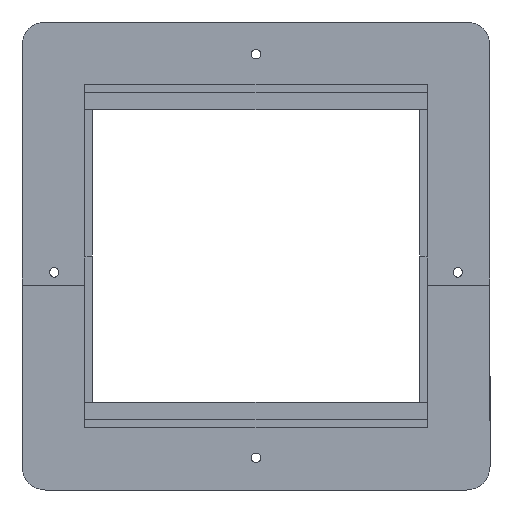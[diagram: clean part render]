
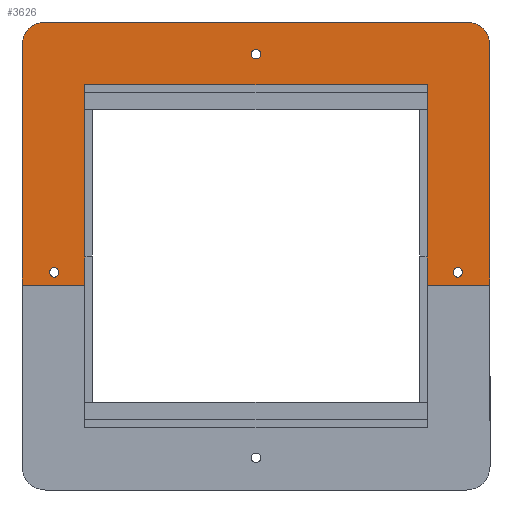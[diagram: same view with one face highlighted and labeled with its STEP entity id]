
A CAD part, front view. The second image highlights one B-rep face of the part: STEP entity #3626.
In plain terms, the highlighted planar face has unit normal (0, -1, 0).
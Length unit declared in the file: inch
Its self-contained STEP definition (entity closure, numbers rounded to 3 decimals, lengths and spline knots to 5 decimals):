
#376 = EDGE_CURVE ( 'NONE', #416, #379, #2373, .T. ) ;
#379 = VERTEX_POINT ( 'NONE', #2363 ) ;
#390 = VERTEX_POINT ( 'NONE', #2518 ) ;
#416 = VERTEX_POINT ( 'NONE', #2346 ) ;
#421 = EDGE_CURVE ( 'NONE', #422, #568, #2335, .T. ) ;
#422 = VERTEX_POINT ( 'NONE', #2329 ) ;
#442 = VERTEX_POINT ( 'NONE', #1443 ) ;
#444 = EDGE_CURVE ( 'NONE', #442, #445, #1460, .T. ) ;
#445 = VERTEX_POINT ( 'NONE', #1432 ) ;
#461 = EDGE_CURVE ( 'NONE', #379, #416, #1482, .T. ) ;
#465 = VERTEX_POINT ( 'NONE', #1520 ) ;
#490 = VERTEX_POINT ( 'NONE', #1530 ) ;
#491 = EDGE_CURVE ( 'NONE', #495, #390, #1532, .T. ) ;
#495 = VERTEX_POINT ( 'NONE', #1564 ) ;
#506 = EDGE_CURVE ( 'NONE', #490, #508, #1557, .T. ) ;
#508 = VERTEX_POINT ( 'NONE', #1541 ) ;
#521 = VERTEX_POINT ( 'NONE', #1586 ) ;
#523 = EDGE_CURVE ( 'NONE', #521, #524, #1595, .T. ) ;
#524 = VERTEX_POINT ( 'NONE', #1585 ) ;
#546 = ORIENTED_EDGE ( 'NONE', *, *, #3619, .F. ) ;
#548 = ORIENTED_EDGE ( 'NONE', *, *, #3622, .F. ) ;
#549 = ORIENTED_EDGE ( 'NONE', *, *, #444, .F. ) ;
#550 = ORIENTED_EDGE ( 'NONE', *, *, #551, .T. ) ;
#551 = EDGE_CURVE ( 'NONE', #442, #422, #1650, .T. ) ;
#552 = ORIENTED_EDGE ( 'NONE', *, *, #421, .T. ) ;
#558 = EDGE_LOOP ( 'NONE', ( #3628, #3686, #3627, #546, #548, #549, #550, #552, #3681, #3893 ) ) ;
#568 = VERTEX_POINT ( 'NONE', #1671 ) ;
#582 = EDGE_CURVE ( 'NONE', #568, #490, #1694, .T. ) ;
#589 = VERTEX_POINT ( 'NONE', #1630 ) ;
#1432 = CARTESIAN_POINT ( 'NONE',  ( -5., 0., 4.5 ) ) ;
#1443 = CARTESIAN_POINT ( 'NONE',  ( -5., 0., -0.62 ) ) ;
#1447 = DIRECTION ( 'NONE',  ( 0., 0., 1. ) ) ;
#1448 = VECTOR ( 'NONE', #1447, 39.37008 ) ;
#1449 = CARTESIAN_POINT ( 'NONE',  ( -5., 0., 4.5 ) ) ;
#1460 = LINE ( 'NONE', #1449, #1448 ) ;
#1482 = CIRCLE ( 'NONE', #1493, 0.1005 ) ;
#1493 = AXIS2_PLACEMENT_3D ( 'NONE', #1515, #1512, #1513 ) ;
#1512 = DIRECTION ( 'NONE',  ( 0., -1., 0. ) ) ;
#1513 = DIRECTION ( 'NONE',  ( 0., 0., -1. ) ) ;
#1515 = CARTESIAN_POINT ( 'NONE',  ( -4.31, 0., -0.35 ) ) ;
#1520 = CARTESIAN_POINT ( 'NONE',  ( -4.5, 0., 5. ) ) ;
#1530 = CARTESIAN_POINT ( 'NONE',  ( 3.656, 0., 3.656 ) ) ;
#1531 = AXIS2_PLACEMENT_3D ( 'NONE', #1538, #1533, #1537 ) ;
#1532 = CIRCLE ( 'NONE', #1531, 0.1005 ) ;
#1533 = DIRECTION ( 'NONE',  ( 0., -1., 0. ) ) ;
#1537 = DIRECTION ( 'NONE',  ( 0., 0., -1. ) ) ;
#1538 = CARTESIAN_POINT ( 'NONE',  ( 0., 0., 4.31 ) ) ;
#1541 = CARTESIAN_POINT ( 'NONE',  ( 3.656, 0., -0.62 ) ) ;
#1554 = DIRECTION ( 'NONE',  ( 0., 0., -1. ) ) ;
#1555 = VECTOR ( 'NONE', #1554, 39.37008 ) ;
#1556 = CARTESIAN_POINT ( 'NONE',  ( 3.656, 0., 3.656 ) ) ;
#1557 = LINE ( 'NONE', #1556, #1555 ) ;
#1564 = CARTESIAN_POINT ( 'NONE',  ( 0., 0., 4.4105 ) ) ;
#1585 = CARTESIAN_POINT ( 'NONE',  ( 4.31, 0., -0.4505 ) ) ;
#1586 = CARTESIAN_POINT ( 'NONE',  ( 4.31, 0., -0.2495 ) ) ;
#1591 = DIRECTION ( 'NONE',  ( 0., 0., 1. ) ) ;
#1592 = DIRECTION ( 'NONE',  ( 0., -1., 0. ) ) ;
#1593 = CARTESIAN_POINT ( 'NONE',  ( 4.31, 0., -0.35 ) ) ;
#1594 = AXIS2_PLACEMENT_3D ( 'NONE', #1593, #1592, #1591 ) ;
#1595 = CIRCLE ( 'NONE', #1594, 0.1005 ) ;
#1630 = CARTESIAN_POINT ( 'NONE',  ( 4.5, 0., 5. ) ) ;
#1649 = CARTESIAN_POINT ( 'NONE',  ( -6., 0., -0.62 ) ) ;
#1650 = LINE ( 'NONE', #1649, #1673 ) ;
#1671 = CARTESIAN_POINT ( 'NONE',  ( -3.656, 0., 3.656 ) ) ;
#1672 = DIRECTION ( 'NONE',  ( 1., 0., 0. ) ) ;
#1673 = VECTOR ( 'NONE', #1672, 39.37008 ) ;
#1691 = DIRECTION ( 'NONE',  ( 1., 0., 0. ) ) ;
#1692 = VECTOR ( 'NONE', #1691, 39.37008 ) ;
#1693 = CARTESIAN_POINT ( 'NONE',  ( -3.656, 0., 3.656 ) ) ;
#1694 = LINE ( 'NONE', #1693, #1692 ) ;
#2329 = CARTESIAN_POINT ( 'NONE',  ( -3.656, 0., -0.62 ) ) ;
#2330 = DIRECTION ( 'NONE',  ( 0., 0., 1. ) ) ;
#2331 = VECTOR ( 'NONE', #2330, 39.37008 ) ;
#2332 = CARTESIAN_POINT ( 'NONE',  ( -3.656, 0., 3.656 ) ) ;
#2335 = LINE ( 'NONE', #2332, #2331 ) ;
#2346 = CARTESIAN_POINT ( 'NONE',  ( -4.31, 0., -0.4505 ) ) ;
#2363 = CARTESIAN_POINT ( 'NONE',  ( -4.31, 0., -0.2495 ) ) ;
#2369 = DIRECTION ( 'NONE',  ( 0., 0., -1. ) ) ;
#2370 = DIRECTION ( 'NONE',  ( 0., -1., 0. ) ) ;
#2371 = CARTESIAN_POINT ( 'NONE',  ( -4.31, 0., -0.35 ) ) ;
#2372 = AXIS2_PLACEMENT_3D ( 'NONE', #2371, #2370, #2369 ) ;
#2373 = CIRCLE ( 'NONE', #2372, 0.1005 ) ;
#2518 = CARTESIAN_POINT ( 'NONE',  ( 0., 0., 4.2095 ) ) ;
#2884 = DIRECTION ( 'NONE',  ( 1., 0., 0. ) ) ;
#2885 = VECTOR ( 'NONE', #2884, 39.37008 ) ;
#2886 = CARTESIAN_POINT ( 'NONE',  ( -4.5, 0., 5. ) ) ;
#2887 = LINE ( 'NONE', #2886, #2885 ) ;
#2912 = CARTESIAN_POINT ( 'NONE',  ( 4.5, 0., 4.5 ) ) ;
#2913 = CIRCLE ( 'NONE', #2972, 0.5 ) ;
#2918 = CARTESIAN_POINT ( 'NONE',  ( 5., 0., 4.5 ) ) ;
#2919 = DIRECTION ( 'NONE',  ( 0., 0., -1. ) ) ;
#2920 = VECTOR ( 'NONE', #2919, 39.37008 ) ;
#2921 = CARTESIAN_POINT ( 'NONE',  ( 5., 0., 4.5 ) ) ;
#2922 = LINE ( 'NONE', #2921, #2920 ) ;
#2923 = CARTESIAN_POINT ( 'NONE',  ( 5., 0., -0.62 ) ) ;
#2924 = DIRECTION ( 'NONE',  ( 0., 0., -1. ) ) ;
#2925 = DIRECTION ( 'NONE',  ( 0., -1., 0. ) ) ;
#2926 = CARTESIAN_POINT ( 'NONE',  ( -4.5, 0., -4.5 ) ) ;
#2927 = AXIS2_PLACEMENT_3D ( 'NONE', #2926, #2925, #2924 ) ;
#2928 = PLANE ( 'NONE',  #2927 ) ;
#2929 = FACE_BOUND ( 'NONE', #3882, .T. ) ;
#2930 = FACE_BOUND ( 'NONE', #3931, .T. ) ;
#2931 = FACE_BOUND ( 'NONE', #3881, .T. ) ;
#2932 = FACE_OUTER_BOUND ( 'NONE', #558, .T. ) ;
#2937 = DIRECTION ( 'NONE',  ( 0., 0., -1. ) ) ;
#2938 = DIRECTION ( 'NONE',  ( 0., 1., 0. ) ) ;
#2939 = CARTESIAN_POINT ( 'NONE',  ( -4.5, 0., 4.5 ) ) ;
#2940 = AXIS2_PLACEMENT_3D ( 'NONE', #2939, #2938, #2937 ) ;
#2941 = CIRCLE ( 'NONE', #2940, 0.5 ) ;
#2966 = DIRECTION ( 'NONE',  ( 1., 0., 0. ) ) ;
#2967 = VECTOR ( 'NONE', #2966, 39.37008 ) ;
#2968 = CARTESIAN_POINT ( 'NONE',  ( -6., 0., -0.62 ) ) ;
#2969 = LINE ( 'NONE', #2968, #2967 ) ;
#2970 = DIRECTION ( 'NONE',  ( 0., 0., 1. ) ) ;
#2971 = DIRECTION ( 'NONE',  ( 0., 1., 0. ) ) ;
#2972 = AXIS2_PLACEMENT_3D ( 'NONE', #2912, #2971, #2970 ) ;
#3082 = CIRCLE ( 'NONE', #3135, 0.1005 ) ;
#3084 = CARTESIAN_POINT ( 'NONE',  ( 4.31, 0., -0.35 ) ) ;
#3091 = DIRECTION ( 'NONE',  ( 0., 0., -1. ) ) ;
#3092 = DIRECTION ( 'NONE',  ( 0., -1., 0. ) ) ;
#3093 = CARTESIAN_POINT ( 'NONE',  ( 0., 0., 4.31 ) ) ;
#3094 = AXIS2_PLACEMENT_3D ( 'NONE', #3093, #3092, #3091 ) ;
#3095 = CIRCLE ( 'NONE', #3094, 0.1005 ) ;
#3133 = DIRECTION ( 'NONE',  ( 0., 0., 1. ) ) ;
#3134 = DIRECTION ( 'NONE',  ( 0., -1., 0. ) ) ;
#3135 = AXIS2_PLACEMENT_3D ( 'NONE', #3084, #3134, #3133 ) ;
#3619 = EDGE_CURVE ( 'NONE', #465, #589, #2887, .T. ) ;
#3622 = EDGE_CURVE ( 'NONE', #445, #465, #2941, .T. ) ;
#3626 = ADVANCED_FACE ( 'NONE', ( #2932, #2931, #2930, #2929 ), #2928, .T. ) ;
#3627 = ORIENTED_EDGE ( 'NONE', *, *, #3683, .F. ) ;
#3628 = ORIENTED_EDGE ( 'NONE', *, *, #3685, .T. ) ;
#3673 = VERTEX_POINT ( 'NONE', #2923 ) ;
#3675 = EDGE_CURVE ( 'NONE', #3676, #3673, #2922, .T. ) ;
#3676 = VERTEX_POINT ( 'NONE', #2918 ) ;
#3680 = ORIENTED_EDGE ( 'NONE', *, *, #3891, .F. ) ;
#3681 = ORIENTED_EDGE ( 'NONE', *, *, #582, .T. ) ;
#3683 = EDGE_CURVE ( 'NONE', #589, #3676, #2913, .T. ) ;
#3685 = EDGE_CURVE ( 'NONE', #508, #3673, #2969, .T. ) ;
#3686 = ORIENTED_EDGE ( 'NONE', *, *, #3675, .F. ) ;
#3881 = EDGE_LOOP ( 'NONE', ( #3680, #3921 ) ) ;
#3882 = EDGE_LOOP ( 'NONE', ( #3884, #3929 ) ) ;
#3883 = ORIENTED_EDGE ( 'NONE', *, *, #461, .F. ) ;
#3884 = ORIENTED_EDGE ( 'NONE', *, *, #3885, .F. ) ;
#3885 = EDGE_CURVE ( 'NONE', #390, #495, #3095, .T. ) ;
#3891 = EDGE_CURVE ( 'NONE', #524, #521, #3082, .T. ) ;
#3893 = ORIENTED_EDGE ( 'NONE', *, *, #506, .T. ) ;
#3921 = ORIENTED_EDGE ( 'NONE', *, *, #523, .F. ) ;
#3928 = ORIENTED_EDGE ( 'NONE', *, *, #376, .F. ) ;
#3929 = ORIENTED_EDGE ( 'NONE', *, *, #491, .F. ) ;
#3931 = EDGE_LOOP ( 'NONE', ( #3928, #3883 ) ) ;
